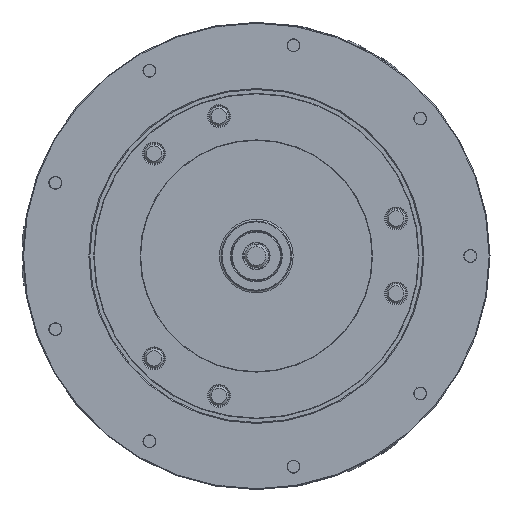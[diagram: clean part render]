
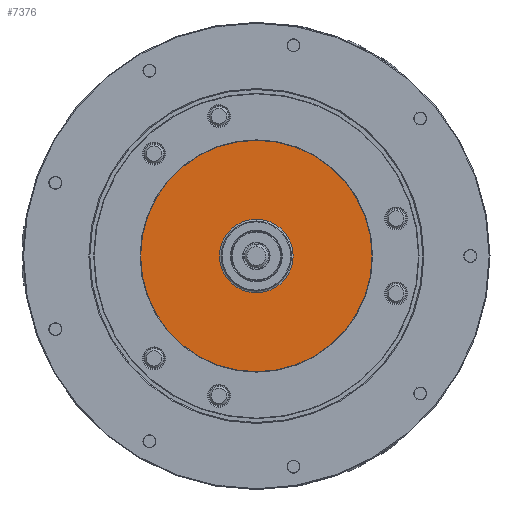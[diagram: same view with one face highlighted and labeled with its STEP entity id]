
A CAD part, left-side view. The second image highlights one B-rep face of the part: STEP entity #7376.
In plain terms, the highlighted planar face has unit normal (-1, 0, 0).
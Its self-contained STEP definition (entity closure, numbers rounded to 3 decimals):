
#699 = CARTESIAN_POINT ( 'NONE',  ( -111.5, 0., 42. ) ) ;
#2204 = DIRECTION ( 'NONE',  ( 1., 0., 0. ) ) ;
#7149 = AXIS2_PLACEMENT_3D ( 'NONE', #38316, #81493, #20667 ) ;
#7376 = ADVANCED_FACE ( 'NONE', ( #73126, #107800 ), #91290, .F. ) ;
#7734 = ORIENTED_EDGE ( 'NONE', *, *, #105454, .F. ) ;
#7983 = DIRECTION ( 'NONE',  ( 0., 0., -1. ) ) ;
#12864 = CARTESIAN_POINT ( 'NONE',  ( -111.5, -42., 0. ) ) ;
#14389 = CIRCLE ( 'NONE', #50678, 42. ) ;
#18341 = ORIENTED_EDGE ( 'NONE', *, *, #69353, .F. ) ;
#20667 = DIRECTION ( 'NONE',  ( 0., 0., -1. ) ) ;
#22273 = CARTESIAN_POINT ( 'NONE',  ( -111.5, 0., 132. ) ) ;
#28017 = CIRCLE ( 'NONE', #108019, 42. ) ;
#32337 = VERTEX_POINT ( 'NONE', #22273 ) ;
#33810 = VERTEX_POINT ( 'NONE', #94233 ) ;
#38316 = CARTESIAN_POINT ( 'NONE',  ( -111.5, 0., 0. ) ) ;
#39510 = CIRCLE ( 'NONE', #102988, 132. ) ;
#39737 = CARTESIAN_POINT ( 'NONE',  ( -111.5, 0., -42. ) ) ;
#39912 = DIRECTION ( 'NONE',  ( 0., 0., -1. ) ) ;
#41046 = EDGE_CURVE ( 'NONE', #64842, #87993, #28017, .T. ) ;
#47570 = DIRECTION ( 'NONE',  ( 0., 0., -1. ) ) ;
#47892 = DIRECTION ( 'NONE',  ( 1., 0., 0. ) ) ;
#50678 = AXIS2_PLACEMENT_3D ( 'NONE', #110382, #47892, #39912 ) ;
#52564 = EDGE_CURVE ( 'NONE', #87993, #64842, #14389, .T. ) ;
#56123 = DIRECTION ( 'NONE',  ( 1., 0., 0. ) ) ;
#59795 = CARTESIAN_POINT ( 'NONE',  ( -111.5, 0., 0. ) ) ;
#61971 = CARTESIAN_POINT ( 'NONE',  ( -111.5, 0., 0. ) ) ;
#64842 = VERTEX_POINT ( 'NONE', #699 ) ;
#69033 = ORIENTED_EDGE ( 'NONE', *, *, #41046, .T. ) ;
#69353 = EDGE_CURVE ( 'NONE', #33810, #32337, #39510, .T. ) ;
#73126 = FACE_OUTER_BOUND ( 'NONE', #102431, .T. ) ;
#81493 = DIRECTION ( 'NONE',  ( 1., 0., 0. ) ) ;
#81612 = CIRCLE ( 'NONE', #7149, 132. ) ;
#82518 = EDGE_LOOP ( 'NONE', ( #98843, #69033 ) ) ;
#85861 = DIRECTION ( 'NONE',  ( 1., 0., 0. ) ) ;
#87993 = VERTEX_POINT ( 'NONE', #39737 ) ;
#89751 = DIRECTION ( 'NONE',  ( 0., 0., -1. ) ) ;
#90948 = AXIS2_PLACEMENT_3D ( 'NONE', #12864, #56123, #47570 ) ;
#91290 = PLANE ( 'NONE',  #90948 ) ;
#94233 = CARTESIAN_POINT ( 'NONE',  ( -111.5, 0., -132. ) ) ;
#98843 = ORIENTED_EDGE ( 'NONE', *, *, #52564, .T. ) ;
#102431 = EDGE_LOOP ( 'NONE', ( #7734, #18341 ) ) ;
#102988 = AXIS2_PLACEMENT_3D ( 'NONE', #61971, #2204, #89751 ) ;
#105454 = EDGE_CURVE ( 'NONE', #32337, #33810, #81612, .T. ) ;
#107800 = FACE_BOUND ( 'NONE', #82518, .T. ) ;
#108019 = AXIS2_PLACEMENT_3D ( 'NONE', #59795, #85861, #7983 ) ;
#110382 = CARTESIAN_POINT ( 'NONE',  ( -111.5, 0., 0. ) ) ;
